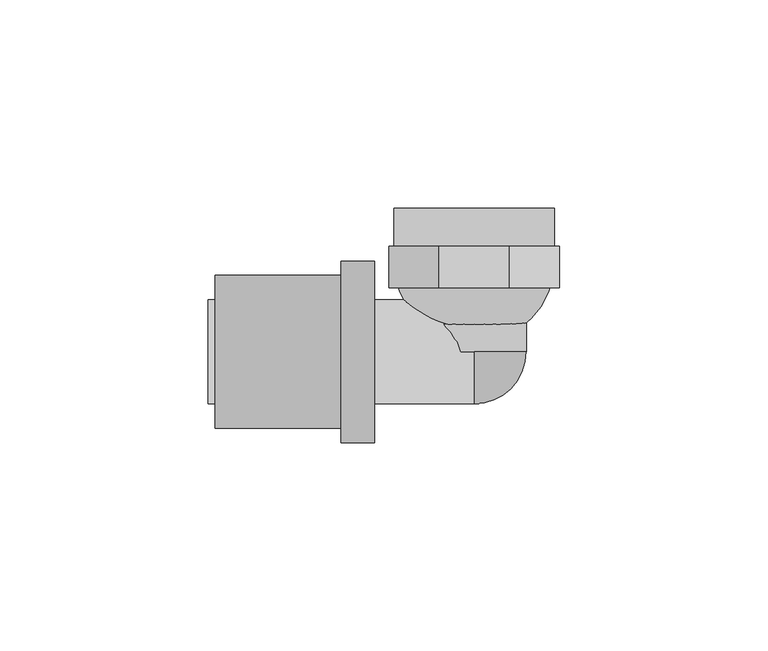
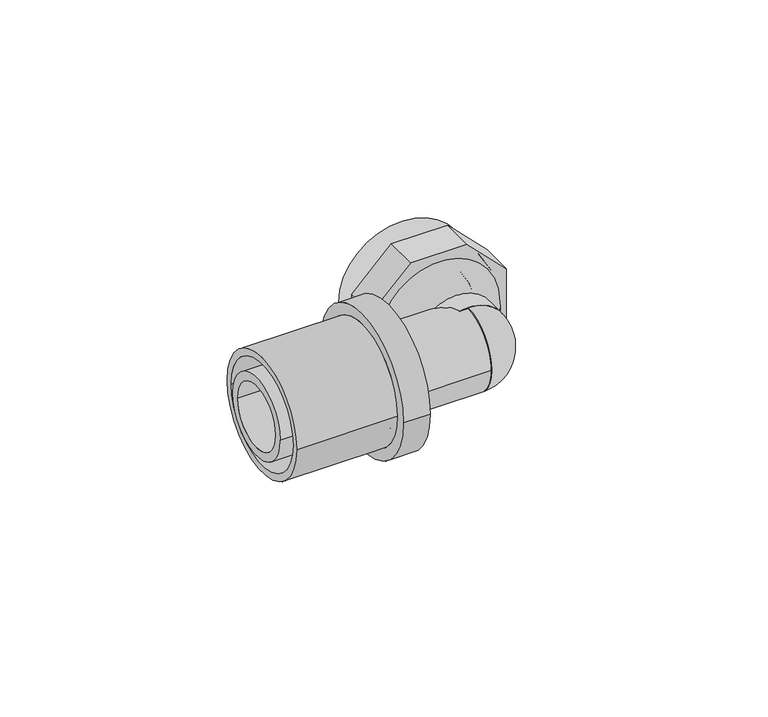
"""IFC4 building model written with IfcOpenShell, lengths in millimetres: pipe fitting geometry, FASTLOC_Elbow with female thread EX+ : FSL A internal AT."""

import ifcopenshell
import ifcopenshell.guid

model = None  # the IFC model being written
_history = None  # IfcOwnerHistory: only IFC2X3 demands one
_inside = {}  # id of a spatial element -> (the spatial element, [elements in it])
_under = {}  # id of a project, library or spatial element -> (it, [spatial elements below it])
_declared = {}  # id of a project -> (the project, [libraries it declares])
_typed = {}  # id of a type object -> (the type object, [elements of that type])
_made_of = {}  # id of a material, layer set ... -> (it, [elements and type objects made of it])


def new_model(schema):
    """Start an empty IFC model of exactly this schema.

    Asked for "IFC4X3", IfcOpenShell would pick the latest addendum, in which some entities
    have other attributes; the version numbers below select the first issue.
    IFC2X3 requires an IfcOwnerHistory on every rooted entity: one is made here for all.
    """
    global model, _history
    if schema == "IFC4X3":
        model = ifcopenshell.file(schema_version=(4, 3, 0, 0))
    else:
        model = ifcopenshell.file(schema=schema)
    _inside.clear()
    _under.clear()
    _declared.clear()
    _typed.clear()
    _made_of.clear()
    _history = None
    if model.schema == "IFC2X3":
        org = make("IfcOrganization", Name="unknown")
        user = make(
            "IfcPersonAndOrganization",
            ThePerson=make("IfcPerson", FamilyName="unknown"),
            TheOrganization=org,
        )
        app = make(
            "IfcApplication",
            ApplicationDeveloper=org,
            Version="unknown",
            ApplicationFullName="unknown",
            ApplicationIdentifier="unknown",
        )
        _history = make(
            "IfcOwnerHistory",
            OwningUser=user,
            OwningApplication=app,
            ChangeAction="ADDED",
            CreationDate=0,
        )
    return model


def make(cls, **values):
    """One entity of the class cls with the attributes given. An attribute that is None is left unset."""
    return model.create_entity(
        cls, **{name: value for name, value in values.items() if value is not None}
    )


def rooted(cls, **values):
    """An entity with a GlobalId (a new one), such as an element, a storey or a relation."""
    return make(cls, GlobalId=ifcopenshell.guid.new(), OwnerHistory=_history, **values)


def si_unit(unit_type, name, prefix=None):
    """IfcSIUnit, for example si_unit("LENGTHUNIT", "METRE", prefix="MILLI")."""
    return make("IfcSIUnit", UnitType=unit_type, Prefix=prefix, Name=name)


def assignment(units):
    """IfcUnitAssignment: the units of a project."""
    return None if units is None else make("IfcUnitAssignment", Units=units)


def point(xyz):
    """IfcCartesianPoint."""
    return None if xyz is None else make("IfcCartesianPoint", Coordinates=xyz)


def direction(xyz):
    """IfcDirection."""
    return None if xyz is None else make("IfcDirection", DirectionRatios=xyz)


def frame(location, z_axis=None, x_axis=None):
    """IfcAxis2Placement3D, a coordinate frame: its origin and axes. An axis left out is left unset."""
    return make(
        "IfcAxis2Placement3D",
        Location=point(location),
        Axis=direction(z_axis),
        RefDirection=direction(x_axis),
    )


def frame_2d(location, x_axis=None):
    """IfcAxis2Placement2D, a coordinate frame in the plane: its origin and x axis."""
    return make(
        "IfcAxis2Placement2D", Location=point(location), RefDirection=direction(x_axis)
    )


def origin():
    """The frame at (0, 0, 0) with its axes left unset."""
    return frame((0.0, 0.0, 0.0))


def origin_2d():
    """The frame at (0, 0) in the plane with its x axis left unset."""
    return frame_2d((0.0, 0.0))


def place(relative_to, where):
    """IfcLocalPlacement: puts the frame where relative to a parent placement (None: the world)."""
    return make(
        "IfcLocalPlacement", PlacementRelTo=relative_to, RelativePlacement=where
    )


def context(
    kind, dimensions, precision=None, world=None, true_north=None, identifier=None
):
    """IfcGeometricRepresentationContext, for example the 3D "Model" context."""
    return make(
        "IfcGeometricRepresentationContext",
        ContextIdentifier=identifier,
        ContextType=kind,
        CoordinateSpaceDimension=dimensions,
        Precision=precision,
        WorldCoordinateSystem=world,
        TrueNorth=true_north,
    )


def project(units=None, contexts=None):
    """IfcProject with its units and contexts."""
    return rooted(
        "IfcProject",
        Name="project",
        RepresentationContexts=contexts,
        UnitsInContext=assignment(units),
    )


def spatial(cls, under=None, at=None, **own):
    """A site, building, storey or space (cls), placed at a placement, below another one or the project."""
    s = rooted(cls, ObjectPlacement=at, **own)
    if under is not None:
        _under.setdefault(under.id(), (under, []))[1].append(s)
    return s


def polyline(points):
    """IfcPolyline through the points."""
    return make("IfcPolyline", Points=[point(p) for p in points])


def circle_curve(where, radius):
    """IfcCircle in the frame where."""
    return make("IfcCircle", Position=where, Radius=radius)


def ellipse_curve(where, semi_axis1, semi_axis2):
    """IfcEllipse in the frame where."""
    return make(
        "IfcEllipse", Position=where, SemiAxis1=semi_axis1, SemiAxis2=semi_axis2
    )


def trimmed(basis, trim1, trim2, sense, master):
    """IfcTrimmedCurve: the piece of a basis curve between two trims."""
    return make(
        "IfcTrimmedCurve",
        BasisCurve=basis,
        Trim1=trim1,
        Trim2=trim2,
        SenseAgreement=sense,
        MasterRepresentation=master,
    )


def segment(curve, same_sense, transition):
    """IfcCompositeCurveSegment."""
    return make(
        "IfcCompositeCurveSegment",
        Transition=transition,
        SameSense=same_sense,
        ParentCurve=curve,
    )


def composite_curve(segments, self_intersect=None):
    """IfcCompositeCurve: segments joined end to end."""
    return make("IfcCompositeCurve", Segments=segments, SelfIntersect=self_intersect)


def outline(outer, holes=None, kind="AREA"):
    """IfcArbitraryClosedProfileDef: a profile drawn as a closed curve; with holes, ...WithVoids."""
    if holes is None:
        return make("IfcArbitraryClosedProfileDef", ProfileType=kind, OuterCurve=outer)
    return make(
        "IfcArbitraryProfileDefWithVoids",
        ProfileType=kind,
        OuterCurve=outer,
        InnerCurves=holes,
    )


def extrude(swept, where, along, depth):
    """IfcExtrudedAreaSolid: the profile swept, set in the frame where, extruded along a direction by depth."""
    return make(
        "IfcExtrudedAreaSolid",
        SweptArea=swept,
        Position=where,
        ExtrudedDirection=direction(along),
        Depth=depth,
    )


def shape(context_of_items, identifier, shape_type, items):
    """IfcShapeRepresentation: the items that make up one representation, for example the "Body"."""
    return make(
        "IfcShapeRepresentation",
        ContextOfItems=context_of_items,
        RepresentationIdentifier=identifier,
        RepresentationType=shape_type,
        Items=items,
    )


def source(mapping_origin, context_of_items, identifier, shape_type, items):
    """IfcRepresentationMap: a shape defined once, which mapped items show again and again."""
    return make(
        "IfcRepresentationMap",
        MappingOrigin=mapping_origin,
        MappedRepresentation=shape(context_of_items, identifier, shape_type, items),
    )


def transform(
    local_origin,
    x_axis=None,
    y_axis=None,
    z_axis=None,
    scale=None,
    scale2=None,
    scale3=None,
    uniform=True,
):
    """IfcCartesianTransformationOperator3D, or its non-uniform kind. x_axis, y_axis, z_axis: its Axis1, 2, 3."""
    if uniform:
        return make(
            "IfcCartesianTransformationOperator3D",
            Axis1=direction(x_axis),
            Axis2=direction(y_axis),
            LocalOrigin=point(local_origin),
            Scale=scale,
            Axis3=direction(z_axis),
        )
    return make(
        "IfcCartesianTransformationOperator3DnonUniform",
        Axis1=direction(x_axis),
        Axis2=direction(y_axis),
        LocalOrigin=point(local_origin),
        Scale=scale,
        Axis3=direction(z_axis),
        Scale2=scale2,
        Scale3=scale3,
    )


def mapped(mapping_source, mapping_target):
    """IfcMappedItem: shows the shape of a source again, moved by a transform."""
    return make(
        "IfcMappedItem", MappingSource=mapping_source, MappingTarget=mapping_target
    )


def made_of(thing, what):
    """Note that an element or type object is made of a material, layer set ...; save() writes the relation."""
    if what is not None:
        _made_of.setdefault(what.id(), (what, []))[1].append(thing)
    return thing


def element(
    cls,
    number,
    at=None,
    inside=None,
    cuts=None,
    type_object=None,
    material=None,
    context=None,
    identifier="Body",
    shape_type=None,
    held_by="IfcProductDefinitionShape",
    body=None,
    shapes=None,
    **own,
):
    """One element of the class cls, such as IfcWall. Its Tag is "e" and its number.

    at: its placement. inside: the storey or other place that contains it. cuts: it is an
    opening in that element (IfcRelVoidsElement). A single representation is given by context,
    identifier, shape_type and body (its items); several are given by shapes. held_by: the class
    of the entity that holds the representations. save() writes the other relations.
    """
    e = rooted(cls, Tag="e%d" % number, ObjectPlacement=at, **own)
    if body is not None:
        shapes = [shape(context, identifier, shape_type, body)]
    if shapes is not None:
        e.Representation = make(held_by, Representations=shapes)
    if inside is not None:
        _inside.setdefault(inside.id(), (inside, []))[1].append(e)
    if cuts is not None:
        rooted(
            "IfcRelVoidsElement", RelatingBuildingElement=cuts, RelatedOpeningElement=e
        )
    if type_object is not None:
        _typed.setdefault(type_object.id(), (type_object, []))[1].append(e)
    return made_of(e, material)


def aggregate(whole, parts):
    """IfcRelAggregates: a whole, such as a stair, and the parts it consists of."""
    return rooted("IfcRelAggregates", RelatingObject=whole, RelatedObjects=parts)


def save(model, path):
    """Write the relations noted so far, then the file.

    IfcRelAggregates (storeys below a building ...), IfcRelContainedInSpatialStructure (elements
    in a storey), IfcRelDefinesByType, IfcRelAssociatesMaterial and IfcRelDeclares: one each for
    every whole, place, type object, material and project.
    """
    for whole, parts in _under.values():
        aggregate(whole, parts)
    for where, things in _inside.values():
        rooted(
            "IfcRelContainedInSpatialStructure",
            RelatedElements=things,
            RelatingStructure=where,
        )
    for kind, things in _typed.values():
        rooted("IfcRelDefinesByType", RelatedObjects=things, RelatingType=kind)
    for what, things in _made_of.values():
        rooted("IfcRelAssociatesMaterial", RelatedObjects=things, RelatingMaterial=what)
    for by, libraries in _declared.values():
        rooted("IfcRelDeclares", RelatingContext=by, RelatedDefinitions=libraries)
    model.write(path)


def plane_surface(at):
    """IfcPlane: the flat surface through the origin of the frame at, square to its z axis."""
    return make("IfcPlane", Position=at)


def cylinder_surface(at, radius):
    """IfcCylindricalSurface: all points at the distance radius from the z axis of the frame at."""
    return make("IfcCylindricalSurface", Position=at, Radius=radius)


def revolved_surface(curve, axis_point, axis_direction):
    """IfcSurfaceOfRevolution: the curve turned about the line through axis_point along axis_direction."""
    return make(
        "IfcSurfaceOfRevolution",
        SweptCurve=make("IfcArbitraryOpenProfileDef", ProfileType="CURVE", Curve=curve),
        AxisPosition=make("IfcAxis1Placement", Location=point(axis_point), Axis=direction(axis_direction)),
    )


def advanced_brep(points, edges, surfaces, faces):
    """IfcAdvancedBrep: a solid bounded by faces that lie on surfaces and meet in shared edges.

    An edge is (start, end): straight between two places in points (the first is 0);
    or (start, end, curve); or (start, end, curve, False) where it runs against its curve.
    A face is (place in surfaces, loops), or (place, loops, False) where it looks against
    its surface's normal. A loop lists edges by number (the first is 1), with a minus sign
    where the edge is run from its end to its start. The first loop is the outer one.
    """
    corners = [point(p) for p in points]
    vertices = [make("IfcVertexPoint", VertexGeometry=c) for c in corners]
    made = []
    for start, end, *more in edges:
        made.append(
            make(
                "IfcEdgeCurve",
                EdgeStart=vertices[start],
                EdgeEnd=vertices[end],
                EdgeGeometry=more[0] if more else make("IfcPolyline", Points=[corners[start], corners[end]]),
                SameSense=more[1] if len(more) > 1 else True,
            )
        )
    hull = []
    for where, loops, *sense in faces:
        bounds = []
        for j, loop in enumerate(loops):
            ring = [make("IfcOrientedEdge", EdgeElement=made[abs(k) - 1], Orientation=k > 0) for k in loop]
            bounds.append(
                make(
                    "IfcFaceOuterBound" if j == 0 else "IfcFaceBound",
                    Bound=make("IfcEdgeLoop", EdgeList=ring),
                    Orientation=True,
                )
            )
        hull.append(make("IfcAdvancedFace", Bounds=bounds, FaceSurface=surfaces[where], SameSense=sense[0] if sense else True))
    return make("IfcAdvancedBrep", Outer=make("IfcClosedShell", CfsFaces=hull))


def pipe_fitting_8eda894a(model_context):
    return source(origin(), model_context, "Body", "SolidModel", [
        advanced_brep(
        [(-32.0, -21.8, 0.0), (-32.0, 21.8, 0.0), (-24.0, 21.8, 0.0), (-24.0, -21.8, 0.0), (-62.3, -18.35, 0.0), (-62.3, 18.35, 0.0), (-32.0, 18.35, 0.0), (-32.0, -18.35, 0.0), (-24.0, -16.2, 0.0), (-24.0, 16.2, 0.0), (-62.3, 16.2, 0.0), (-62.3, -16.2, 0.0)],
        [
            (0, 1, circle_curve(frame((-32.0, 0.0, 0.0), z_axis=(1.0, 0.0, 0.0), x_axis=(0.0, 1.0, 0.0)), 21.8)),
            (1, 2),
            (2, 3, circle_curve(frame((-24.0, 0.0, 0.0), z_axis=(-1.0, 0.0, 0.0), x_axis=(0.0, 1.0, 0.0)), 21.8)),
            (3, 0),
            (4, 5, circle_curve(frame((-62.3, 0.0, 0.0), z_axis=(1.0, 0.0, 0.0), x_axis=(0.0, 1.0, 0.0)), 18.35)),
            (5, 6),
            (6, 7, circle_curve(frame((-32.0, 0.0, 0.0), z_axis=(-1.0, 0.0, 0.0), x_axis=(0.0, 1.0, 0.0)), 18.35)),
            (7, 4),
            (8, 9, circle_curve(frame((-24.0, 0.0, 0.0), z_axis=(1.0, 0.0, 0.0), x_axis=(0.0, 1.0, 0.0)), 16.2)),
            (9, 10),
            (10, 11, circle_curve(frame((-62.3, 0.0, 0.0), z_axis=(-1.0, 0.0, 0.0), x_axis=(0.0, 1.0, 0.0)), 16.2)),
            (11, 8),
            (1, 0, circle_curve(frame((-32.0, 0.0, 0.0), z_axis=(1.0, 0.0, 0.0), x_axis=(0.0, -1.0, 0.0)), 21.8)),
            (3, 2, circle_curve(frame((-24.0, 0.0, 0.0), z_axis=(-1.0, 0.0, 0.0), x_axis=(0.0, -1.0, 0.0)), 21.8)),
            (6, 7, circle_curve(frame((-32.0, 0.0, 0.0), z_axis=(1.0, 0.0, 0.0), x_axis=(0.0, -1.0, 0.0)), 18.35)),
            (5, 4, circle_curve(frame((-62.3, 0.0, 0.0), z_axis=(1.0, 0.0, 0.0), x_axis=(0.0, -1.0, 0.0)), 18.35)),
            (10, 11, circle_curve(frame((-62.3, 0.0, 0.0), z_axis=(1.0, 0.0, 0.0), x_axis=(0.0, -1.0, 0.0)), 16.2)),
            (9, 8, circle_curve(frame((-24.0, 0.0, 0.0), z_axis=(1.0, 0.0, 0.0), x_axis=(0.0, -1.0, 0.0)), 16.2)),
        ],
        [
            cylinder_surface(frame((-24.0, 0.0, 0.0), z_axis=(-1.0, 0.0, 0.0), x_axis=(0.0, 1.0, 0.0)), 21.8),
            cylinder_surface(frame((-24.0, 0.0, 0.0), z_axis=(-1.0, 0.0, 0.0), x_axis=(0.0, 1.0, 0.0)), 18.35),
            revolved_surface(polyline([(-62.3, 16.2, 0.0), (-24.0, 16.2, 0.0)]), (-24.0, 0.0, 0.0), (-1.0, 0.0, 0.0)),
            cylinder_surface(frame((-24.0, 0.0, 0.0), z_axis=(-1.0, 0.0, 0.0), x_axis=(0.0, -1.0, 0.0)), 21.8),
            plane_surface(frame((-32.0, 0.0, 0.0), z_axis=(-1.0, 0.0, 0.0), x_axis=(0.0, -1.0, 0.0))),
            cylinder_surface(frame((-24.0, 0.0, 0.0), z_axis=(-1.0, 0.0, 0.0), x_axis=(0.0, -1.0, 0.0)), 18.35),
            plane_surface(frame((-62.3, 0.0, 0.0), z_axis=(-1.0, 0.0, 0.0), x_axis=(0.0, -1.0, 0.0))),
            revolved_surface(polyline([(-62.3, -16.2, 0.0), (-24.0, -16.2, 0.0)]), (-24.0, 0.0, 0.0), (-1.0, 0.0, 0.0)),
            plane_surface(frame((-24.0, 0.0, 0.0), z_axis=(1.0, 0.0, 0.0), x_axis=(0.0, -1.0, 0.0))),
        ],
        [
            (0, [[1, 2, 3, 4]]),
            (1, [[5, 6, 7, 8]]),
            (2, [[9, 10, 11, 12]]),
            (3, [[13, -4, 14, -2]]),
            (4, [[-13, -1], [15, -7]]),
            (5, [[16, -8, -15, -6]]),
            (6, [[-16, -5], [17, -11]]),
            (7, [[18, -12, -17, -10]]),
            (8, [[-14, -3], [-18, -9]]),
        ],
    ),
        advanced_brep(
        [(0.0, 0.0, 12.5), (0.0, 0.0, 6.25), (0.0, -6.25, 0.0), (0.0, -12.5, 0.0), (0.0, 0.0, -12.5), (0.0, 0.0, -6.25)],
        [
            (0, 1),
            (1, 2, circle_curve(frame((0.0, 0.0, 0.0), z_axis=(1.0, 0.0, 0.0), x_axis=(0.0, 0.0, 1.0)), 6.25)),
            (2, 3),
            (3, 0, circle_curve(frame((0.0, 0.0, 0.0), z_axis=(-1.0, 0.0, 0.0), x_axis=(0.0, 0.0, 1.0)), 12.5)),
            (4, 3, circle_curve(frame((0.0, 0.0, 0.0), z_axis=(-1.0, 0.0, 0.0), x_axis=(0.0, 0.0, -1.0)), 12.5)),
            (2, 5, circle_curve(frame((0.0, 0.0, 0.0), z_axis=(1.0, 0.0, 0.0), x_axis=(0.0, 0.0, -1.0)), 6.25)),
            (5, 4),
            (5, 1, circle_curve(frame((0.0, 0.0, 0.0), z_axis=(0.0, -1.0, 0.0), x_axis=(0.0, 0.0, 1.0)), 6.25)),
            (0, 4, circle_curve(frame((0.0, 0.0, 0.0), z_axis=(0.0, 1.0, 0.0), x_axis=(0.0, 0.0, 1.0)), 12.5)),
        ],
        [
            plane_surface(frame((0.0, 0.0, 0.0), z_axis=(-1.0, 0.0, 0.0), x_axis=(0.0, 0.0, 1.0))),
            plane_surface(frame((0.0, 0.0, 0.0), z_axis=(-1.0, 0.0, 0.0), x_axis=(0.0, 0.0, -1.0))),
            plane_surface(frame((0.0, 0.0, 0.0), z_axis=(0.0, 1.0, 0.0), x_axis=(0.0, 0.0, 1.0))),
            revolved_surface(trimmed(ellipse_curve(frame((0.0, 0.0, 0.0), z_axis=(1.0, 0.0, 0.0), x_axis=(0.0, 0.0, 1.0)), 6.25, 6.25), [point((0.0, 0.0, 6.25))], [point((0.0, -6.25, 0.0))], True, "CARTESIAN"), (0.0, 0.0, 0.0), (0.0, 1.0, 0.0)),
            revolved_surface(trimmed(ellipse_curve(frame((0.0, 0.0, 0.0), z_axis=(-1.0, 0.0, 0.0), x_axis=(0.0, 0.0, 1.0)), 12.5, 12.5), [point((0.0, -12.5, 0.0))], [point((0.0, 0.0, 12.5))], True, "CARTESIAN"), (0.0, 0.0, 0.0), (0.0, 1.0, 0.0)),
        ],
        [
            (0, [[1, 2, 3, 4]]),
            (1, [[5, -3, 6, 7]]),
            (2, [[8, -1, 9, -7]]),
            (3, [[-2, -8, -6]]),
            (4, [[-9, -4, -5]]),
        ],
    ),
        extrude(outline(polyline([(-20.5, 8.491378), (-8.491378, 20.5), (8.491378, 20.5), (20.5, 8.491378), (20.5, -8.491378), (8.491378, -20.5), (-8.491378, -20.5), (-20.5, -8.491378), (-20.5, 8.491378)])), frame((0.0, 15.4, 0.0), z_axis=(0.0, 1.0, 0.0), x_axis=(0.0, 0.0, 1.0)), (0.0, 0.0, 1.0), 10.0),
        advanced_brep(
        [(0.5, 2.2564946, 0.0), (-0.5, 2.2564946, 0.0), (-19.25, 21.5, 0.0), (19.25, 21.5, 0.0), (0.5, 9.010004, 0.0), (-0.5, 9.010004, 0.0), (12.5, 21.5, 0.0), (-12.5, 21.5, 0.0), (12.5, 34.5, 0.0), (-12.5, 34.5, 0.0), (-19.25, 34.5, 0.0), (19.25, 34.5, 0.0)],
        [
            (0, 1, circle_curve(frame((0.0, 2.2564946, 0.0), z_axis=(0.0, 1.0, 0.0), x_axis=(-1.0, 0.0, 0.0)), 0.5)),
            (1, 2, circle_curve(frame((0.0, 21.5, 0.0), z_axis=(0.0, 0.0, -1.0), x_axis=(0.0, 1.0, 0.0)), 19.25)),
            (2, 3, circle_curve(frame((0.0, 21.5, 0.0), z_axis=(0.0, -1.0, 0.0), x_axis=(-1.0, 0.0, 0.0)), 19.25)),
            (3, 0, circle_curve(frame((0.0, 21.5, 0.0), z_axis=(0.0, 0.0, -1.0), x_axis=(0.0, 1.0, 0.0)), 19.25)),
            (4, 5, circle_curve(frame((0.0, 9.010004, 0.0), z_axis=(0.0, 1.0, 0.0), x_axis=(-1.0, 0.0, 0.0)), 0.5)),
            (5, 1),
            (0, 4),
            (6, 7, circle_curve(frame((0.0, 21.5, 0.0), z_axis=(0.0, 1.0, 0.0), x_axis=(-1.0, 0.0, 0.0)), 12.5)),
            (7, 5, circle_curve(frame((0.0, 21.5, 0.0), z_axis=(0.0, 0.0, 1.0), x_axis=(0.0, 1.0, 0.0)), 12.5)),
            (4, 6, circle_curve(frame((0.0, 21.5, 0.0), z_axis=(0.0, 0.0, 1.0), x_axis=(0.0, 1.0, 0.0)), 12.5)),
            (8, 9, circle_curve(frame((0.0, 34.5, 0.0), z_axis=(0.0, 1.0, 0.0), x_axis=(-1.0, 0.0, 0.0)), 12.5)),
            (9, 7),
            (6, 8),
            (2, 10),
            (10, 11, circle_curve(frame((0.0, 34.5, 0.0), z_axis=(0.0, -1.0, 0.0), x_axis=(-1.0, 0.0, 0.0)), 19.25)),
            (11, 3),
            (1, 0, circle_curve(frame((0.0, 2.2564946, 0.0), z_axis=(0.0, 1.0, 0.0), x_axis=(1.0, 0.0, 0.0)), 0.5)),
            (3, 2, circle_curve(frame((0.0, 21.5, 0.0), z_axis=(0.0, -1.0, 0.0), x_axis=(1.0, 0.0, 0.0)), 19.25)),
            (5, 4, circle_curve(frame((0.0, 9.010004, 0.0), z_axis=(0.0, 1.0, 0.0), x_axis=(1.0, 0.0, 0.0)), 0.5)),
            (7, 6, circle_curve(frame((0.0, 21.5, 0.0), z_axis=(0.0, 1.0, 0.0), x_axis=(1.0, 0.0, 0.0)), 12.5)),
            (9, 8, circle_curve(frame((0.0, 34.5, 0.0), z_axis=(0.0, 1.0, 0.0), x_axis=(1.0, 0.0, 0.0)), 12.5)),
            (10, 11, circle_curve(frame((0.0, 34.5, 0.0), z_axis=(0.0, 1.0, 0.0), x_axis=(1.0, 0.0, 0.0)), 19.25)),
        ],
        [
            revolved_surface(trimmed(ellipse_curve(frame((0.0, 21.5, 0.0), z_axis=(0.0, 0.0, 1.0), x_axis=(0.0, 1.0, 0.0)), 19.25, 19.25), [point((-19.25, 21.5, 0.0))], [point((-0.5, 2.2564946, 0.0))], True, "CARTESIAN"), (0.0, 15.4, 0.0), (0.0, -1.0, 0.0)),
            revolved_surface(polyline([(-0.5, 2.2564946, 0.0), (-0.5, 9.010004, 0.0)]), (0.0, 15.4, 0.0), (0.0, -1.0, 0.0)),
            revolved_surface(trimmed(ellipse_curve(frame((0.0, 21.5, 0.0), z_axis=(0.0, 0.0, -1.0), x_axis=(0.0, 1.0, 0.0)), 12.5, 12.5), [point((-0.5, 9.010004, 0.0))], [point((-12.5, 21.5, 0.0))], True, "CARTESIAN"), (0.0, 15.4, 0.0), (0.0, -1.0, 0.0)),
            revolved_surface(polyline([(-12.5, 21.5, 0.0), (-12.5, 34.5, 0.0)]), (0.0, 15.4, 0.0), (0.0, -1.0, 0.0)),
            cylinder_surface(frame((0.0, 15.4, 0.0), z_axis=(0.0, -1.0, 0.0), x_axis=(-1.0, 0.0, 0.0)), 19.25),
            revolved_surface(trimmed(ellipse_curve(frame((0.0, 21.5, 0.0), z_axis=(0.0, 0.0, -1.0), x_axis=(0.0, 1.0, 0.0)), 19.25, 19.25), [point((19.25, 21.5, 0.0))], [point((0.5, 2.2564946, 0.0))], True, "CARTESIAN"), (0.0, 15.4, 0.0), (0.0, -1.0, 0.0)),
            revolved_surface(polyline([(0.5, 2.2564946, 0.0), (0.5, 9.010004, 0.0)]), (0.0, 15.4, 0.0), (0.0, -1.0, 0.0)),
            revolved_surface(trimmed(ellipse_curve(frame((0.0, 21.5, 0.0), z_axis=(0.0, 0.0, 1.0), x_axis=(0.0, 1.0, 0.0)), 12.5, 12.5), [point((0.5, 9.010004, 0.0))], [point((12.5, 21.5, 0.0))], True, "CARTESIAN"), (0.0, 15.4, 0.0), (0.0, -1.0, 0.0)),
            revolved_surface(polyline([(12.5, 21.5, 0.0), (12.5, 34.5, 0.0)]), (0.0, 15.4, 0.0), (0.0, -1.0, 0.0)),
            plane_surface(frame((0.0, 34.5, 0.0), z_axis=(0.0, 1.0, 0.0), x_axis=(1.0, 0.0, 0.0))),
            cylinder_surface(frame((0.0, 15.4, 0.0), z_axis=(0.0, -1.0, 0.0), x_axis=(1.0, 0.0, 0.0)), 19.25),
        ],
        [
            (0, [[1, 2, 3, 4]]),
            (1, [[5, 6, -1, 7]]),
            (2, [[8, 9, -5, 10]]),
            (3, [[11, 12, -8, 13]]),
            (4, [[-3, 14, 15, 16]]),
            (5, [[17, -4, 18, -2]]),
            (6, [[19, -7, -17, -6]]),
            (7, [[20, -10, -19, -9]]),
            (8, [[21, -13, -20, -12]]),
            (9, [[22, -15], [-21, -11]]),
            (10, [[-18, -16, -22, -14]]),
        ],
    ),
        extrude(outline(composite_curve([segment(trimmed(circle_curve(origin_2d(), 12.5), [point((0.0, -12.5))], [point((0.0, 12.5))], False, "CARTESIAN"), True, "CONTINUOUS"), segment(trimmed(circle_curve(origin_2d(), 12.5), [point((0.0, 12.5))], [point((0.0, -12.5))], False, "CARTESIAN"), True, "CONTINUOUS")], self_intersect=False), holes=[composite_curve([segment(trimmed(circle_curve(origin_2d(), 9.85), [point((0.0, -9.85))], [point((0.0, 9.85))], True, "CARTESIAN"), True, "CONTINUOUS"), segment(trimmed(circle_curve(origin_2d(), 9.85), [point((0.0, 9.85))], [point((0.0, -9.85))], True, "CARTESIAN"), True, "CONTINUOUS")], self_intersect=False)]), frame((0.0, 0.0, 0.0), z_axis=(0.0, 1.0, 0.0), x_axis=(0.0, 0.0, 1.0)), (0.0, 0.0, 1.0), 15.4),
        advanced_brep(
        [(-32.0, 12.5, 0.0), (-32.0, -12.5, 0.0), (-64.0, -12.5, 0.0), (-64.0, 12.5, 0.0), (-29.0, 14.1, 0.0), (-29.0, -14.1, 0.0), (-32.0, -14.1, 0.0), (-32.0, 14.1, 0.0), (0.0, 12.5, 0.0), (0.0, -12.5, 0.0), (-29.0, -12.5, 0.0), (-29.0, 12.5, 0.0), (-64.0, 9.85, 0.0), (-64.0, -9.85, 0.0), (0.0, -9.85, 0.0), (0.0, 9.85, 0.0)],
        [
            (0, 1, circle_curve(frame((-32.0, 0.0, 0.0), z_axis=(-1.0, 0.0, 0.0), x_axis=(0.0, -1.0, 0.0)), 12.5)),
            (1, 2),
            (2, 3, circle_curve(frame((-64.0, 0.0, 0.0), z_axis=(1.0, 0.0, 0.0), x_axis=(0.0, -1.0, 0.0)), 12.5)),
            (3, 0),
            (4, 5, circle_curve(frame((-29.0, 0.0, 0.0), z_axis=(-1.0, 0.0, 0.0), x_axis=(0.0, -1.0, 0.0)), 14.1)),
            (5, 6),
            (6, 7, circle_curve(frame((-32.0, 0.0, 0.0), z_axis=(1.0, 0.0, 0.0), x_axis=(0.0, -1.0, 0.0)), 14.1)),
            (7, 4),
            (8, 9, circle_curve(frame((0.0, 0.0, 0.0), z_axis=(-1.0, 0.0, 0.0), x_axis=(0.0, -1.0, 0.0)), 12.5)),
            (9, 10),
            (10, 11, circle_curve(frame((-29.0, 0.0, 0.0), z_axis=(1.0, 0.0, 0.0), x_axis=(0.0, -1.0, 0.0)), 12.5)),
            (11, 8),
            (12, 13, circle_curve(frame((-64.0, 0.0, 0.0), z_axis=(-1.0, 0.0, 0.0), x_axis=(0.0, -1.0, 0.0)), 9.85)),
            (13, 14),
            (14, 15, circle_curve(frame((0.0, 0.0, 0.0), z_axis=(1.0, 0.0, 0.0), x_axis=(0.0, -1.0, 0.0)), 9.85)),
            (15, 12),
            (2, 3, circle_curve(frame((-64.0, 0.0, 0.0), z_axis=(-1.0, 0.0, 0.0), x_axis=(0.0, 1.0, 0.0)), 12.5)),
            (12, 13, circle_curve(frame((-64.0, 0.0, 0.0), z_axis=(1.0, 0.0, 0.0), x_axis=(0.0, 1.0, 0.0)), 9.85)),
            (1, 0, circle_curve(frame((-32.0, 0.0, 0.0), z_axis=(-1.0, 0.0, 0.0), x_axis=(0.0, 1.0, 0.0)), 12.5)),
            (6, 7, circle_curve(frame((-32.0, 0.0, 0.0), z_axis=(-1.0, 0.0, 0.0), x_axis=(0.0, 1.0, 0.0)), 14.1)),
            (5, 4, circle_curve(frame((-29.0, 0.0, 0.0), z_axis=(-1.0, 0.0, 0.0), x_axis=(0.0, 1.0, 0.0)), 14.1)),
            (10, 11, circle_curve(frame((-29.0, 0.0, 0.0), z_axis=(-1.0, 0.0, 0.0), x_axis=(0.0, 1.0, 0.0)), 12.5)),
            (9, 8, circle_curve(frame((0.0, 0.0, 0.0), z_axis=(-1.0, 0.0, 0.0), x_axis=(0.0, 1.0, 0.0)), 12.5)),
            (14, 15, circle_curve(frame((0.0, 0.0, 0.0), z_axis=(-1.0, 0.0, 0.0), x_axis=(0.0, 1.0, 0.0)), 9.85)),
        ],
        [
            cylinder_surface(frame((0.0, 0.0, 0.0), z_axis=(1.0, 0.0, 0.0), x_axis=(0.0, -1.0, 0.0)), 12.5),
            cylinder_surface(frame((0.0, 0.0, 0.0), z_axis=(1.0, 0.0, 0.0), x_axis=(0.0, -1.0, 0.0)), 14.1),
            revolved_surface(polyline([(0.0, -9.85, 0.0), (-64.0, -9.85, 0.0)]), (0.0, 0.0, 0.0), (1.0, 0.0, 0.0)),
            plane_surface(frame((-64.0, 0.0, 0.0), z_axis=(-1.0, 0.0, 0.0), x_axis=(0.0, 1.0, 0.0))),
            cylinder_surface(frame((0.0, 0.0, 0.0), z_axis=(1.0, 0.0, 0.0), x_axis=(0.0, 1.0, 0.0)), 12.5),
            plane_surface(frame((-32.0, 0.0, 0.0), z_axis=(-1.0, 0.0, 0.0), x_axis=(0.0, 1.0, 0.0))),
            cylinder_surface(frame((0.0, 0.0, 0.0), z_axis=(1.0, 0.0, 0.0), x_axis=(0.0, 1.0, 0.0)), 14.1),
            plane_surface(frame((-29.0, 0.0, 0.0), z_axis=(1.0, 0.0, 0.0), x_axis=(0.0, 1.0, 0.0))),
            plane_surface(frame((0.0, 0.0, 0.0), z_axis=(1.0, 0.0, 0.0), x_axis=(0.0, 1.0, 0.0))),
            revolved_surface(polyline([(0.0, 9.85, 0.0), (-64.0, 9.85, 0.0)]), (0.0, 0.0, 0.0), (1.0, 0.0, 0.0)),
        ],
        [
            (0, [[1, 2, 3, 4]]),
            (1, [[5, 6, 7, 8]]),
            (0, [[9, 10, 11, 12]]),
            (2, [[13, 14, 15, 16]]),
            (3, [[17, -3], [18, -13]]),
            (4, [[19, -4, -17, -2]]),
            (5, [[20, -7], [-19, -1]]),
            (6, [[21, -8, -20, -6]]),
            (7, [[-21, -5], [22, -11]]),
            (4, [[23, -12, -22, -10]]),
            (8, [[-23, -9], [24, -15]]),
            (9, [[-18, -16, -24, -14]]),
        ],
    ),
    ])


if __name__ == "__main__":
    model = new_model("IFC4")
    model_context = context("Model", 3, world=origin())
    ifc_project = project(units=[si_unit("LENGTHUNIT", "METRE", prefix="MILLI")], contexts=[model_context])
    site = spatial("IfcSite", under=ifc_project)
    building = spatial("IfcBuilding", under=site)
    placement = place(None, origin())
    pipe_fitting_shape = pipe_fitting_8eda894a(model_context)
    element("IfcPipeFitting", 1, ObjectType="FASTLOC_Elbow with female thread EX+ : FSL A internal AT", at=placement, inside=building, context=model_context, shape_type="MappedRepresentation", body=[
        mapped(pipe_fitting_shape, transform((0.0, 0.0, 0.0), x_axis=(1.0, 0.0, 0.0), y_axis=(0.0, 1.0, 0.0), z_axis=(0.0, 0.0, 1.0))),
    ])
    save(model, "model.ifc")
